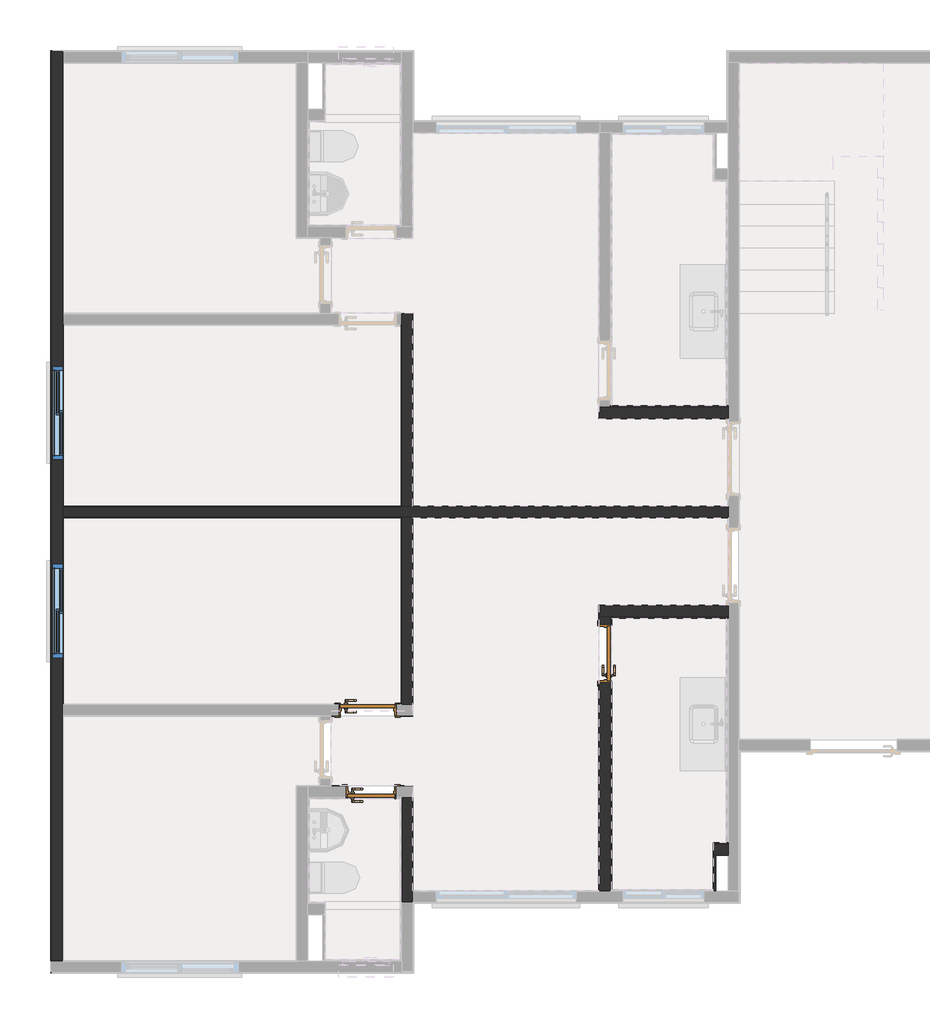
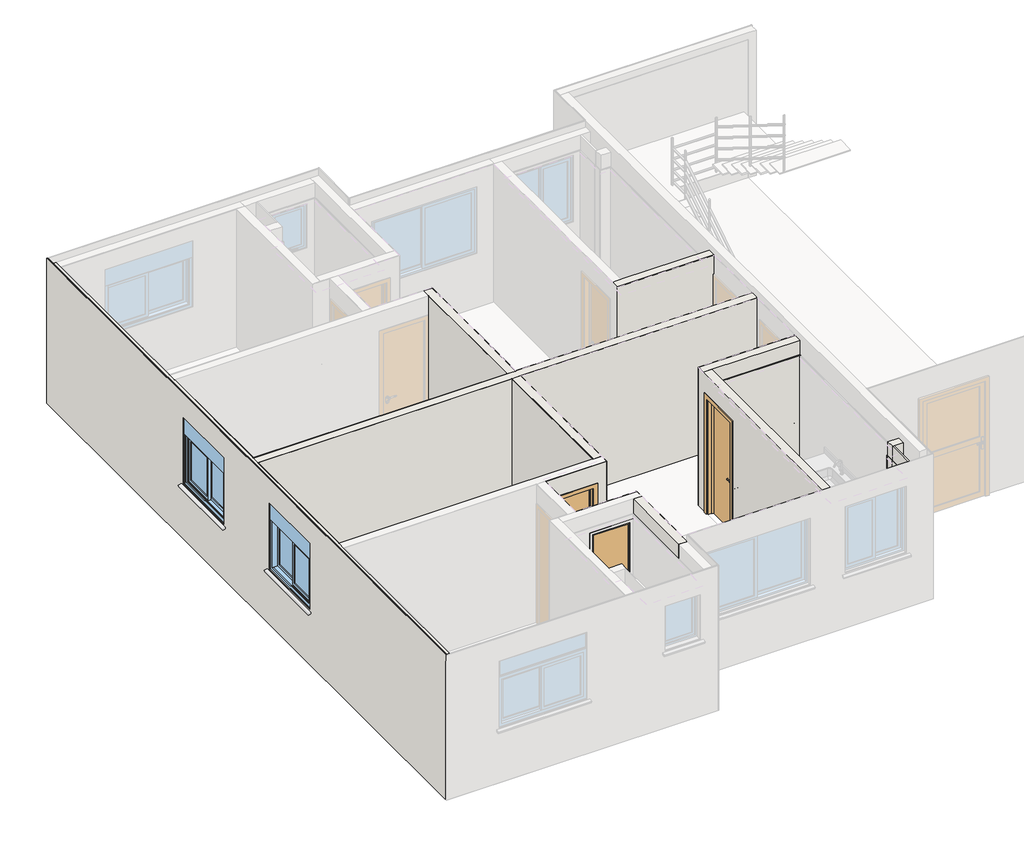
# One storey, part 2 of 9: 33 walls, 3 doors, 2 windows.
"""IFC4 building model written with IfcOpenShell, lengths in millimetres."""

from ifc_helpers import new_model, si_unit, frame, origin, place, context, project, spatial, polyline, outline, extrude, faceted_brep, transform, mapped, element, save
from components import porta_de_madeira_interna_60_x_210_porta_de_madeira_interna_53f76a03, porta_de_madeira_interna_70_x_210_porta_de_madeira_interna_d0067c94, porta_de_madeira_interna_70_x_210_porta_de_madeira_interna_f307109d, window_120x120_fed861a7, window_120x120_8f0dd2b5

model = new_model("IFC4")

# Units and contexts
model_context = context("Model", 3, world=origin())
ifc_project = project(units=[si_unit("LENGTHUNIT", "METRE", prefix="MILLI")], contexts=[model_context])

# Site, building, storey
site = spatial("IfcSite", under=ifc_project)
building = spatial("IfcBuilding", under=site)
storey = spatial("IfcBuildingStorey", under=building, Name="2º Pavimento", Elevation=2630.0)

# Doors
placement = place(None, origin())
porta_de_madeira_interna_60_x_210_porta_de_madeira_interna_shape = porta_de_madeira_interna_60_x_210_porta_de_madeira_interna_53f76a03(model_context)
element("IfcDoor", 1, ObjectType="Porta de Madeira Interna 60 x 210 : Porta de Madeira Interna 60 x 210", at=placement, inside=storey, context=model_context, shape_type="MappedRepresentation", body=[
    mapped(porta_de_madeira_interna_60_x_210_porta_de_madeira_interna_shape, transform((4137.9990083, 2796.8217615, 2630.0), x_axis=(1.0, 0.0, 0.0), y_axis=(0.0, 1.0, 0.0), z_axis=(0.0, 0.0, 1.0))),
])
porta_de_madeira_interna_70_x_210_porta_de_madeira_interna_shape = porta_de_madeira_interna_70_x_210_porta_de_madeira_interna_d0067c94(model_context)
element("IfcDoor", 2, ObjectType="Porta de Madeira Interna 70 x 210 : Porta de Madeira Interna 70 x 210", at=placement, inside=storey, context=model_context, shape_type="MappedRepresentation", body=[
    mapped(porta_de_madeira_interna_70_x_210_porta_de_madeira_interna_shape, transform((4092.999908, 3853.1701411, 2630.0), x_axis=(1.0, 0.0, 0.0), y_axis=(0.0, 1.0, 0.0), z_axis=(0.0, 0.0, 1.0))),
])
porta_de_madeira_interna_70_x_210_porta_de_madeira_interna_2_shape = porta_de_madeira_interna_70_x_210_porta_de_madeira_interna_f307109d(model_context)
element("IfcDoor", 3, ObjectType="Porta de Madeira Interna 70 x 210 : Porta de Madeira Interna 70 x 210", at=placement, inside=storey, context=model_context, shape_type="MappedRepresentation", body=[
    mapped(porta_de_madeira_interna_70_x_210_porta_de_madeira_interna_2_shape, transform((7146.1736861, 4578.6603139, 2630.0), x_axis=(0.0, 1.0, 0.0), y_axis=(-1.0, 0.0, 0.0), z_axis=(0.0, 0.0, 1.0))),
])

# Walls
element("IfcWall", 4, ObjectType="Alvenaria Estrutural", at=placement, inside=storey, context=model_context, shape_type="Brep", body=[
    faceted_brep([(29.9991825, 12319.9951043, 2630.0), (29.9991825, 619.9952456, 2630.0), (29.9991825, 619.9952456, 5140.0), (29.9991825, 12319.9951043, 5140.0), (29.9991825, 5725.0101878, 3630.0), (29.9991825, 5725.0101878, 4830.0), (29.9991825, 4525.0101878, 4830.0), (29.9991825, 4525.0101878, 3630.0), (29.9991825, 4475.0101878, 3630.0), (29.9991825, 4475.0101878, 3581.3083694), (29.9991825, 5775.0101878, 3581.3083694), (29.9991825, 5775.0101878, 3630.0), (29.9991825, 7025.01044, 3630.0), (29.9991825, 7025.01044, 3581.3083694), (29.9991825, 8325.01044, 3581.3083694), (29.9991825, 8325.01044, 3630.0), (29.9991825, 8275.01044, 3630.0), (29.9991825, 8275.01044, 4830.0), (29.9991825, 7075.01044, 4830.0), (29.9991825, 7075.01044, 3630.0), (169.9991825, 619.9952456, 2630.0), (169.9991825, 3773.9951411, 2630.0), (169.9991825, 3779.9951411, 2630.0), (169.9991825, 3919.9951411, 2630.0), (169.9991825, 3925.9951411, 2630.0), (169.9991825, 6324.0103139, 2630.0), (169.9991825, 6330.0103139, 2630.0), (169.9991825, 6470.0103139, 2630.0), (169.9991825, 6476.0103139, 2630.0), (169.9991825, 8804.0244803, 2630.0), (169.9991825, 8810.0244803, 2630.0), (169.9991825, 8950.0244803, 2630.0), (169.9991825, 8956.0244803, 2630.0), (169.9991825, 12180.0252435, 2630.0), (169.9991825, 12319.9951043, 2630.0), (169.9991825, 12319.9951043, 5140.0), (169.9991825, 12180.0252435, 5140.0), (169.9991825, 8956.0244803, 5140.0), (169.9991825, 8950.0244803, 5140.0), (169.9991825, 8810.0244803, 5140.0), (169.9991825, 8804.0244803, 5140.0), (169.9991825, 6476.0103139, 5140.0), (169.9991825, 6470.0103139, 5140.0), (169.9991825, 6330.0103139, 5140.0), (169.9991825, 6324.0103139, 5140.0), (169.9991825, 3925.9951411, 5140.0), (169.9991825, 3919.9951411, 5140.0), (169.9991825, 3779.9951411, 5140.0), (169.9991825, 3773.9951411, 5140.0), (169.9991825, 619.9952456, 5140.0), (169.9991825, 5725.0101878, 4830.0), (169.9991825, 5725.0101878, 3630.0), (169.9991825, 4525.0101878, 3630.0), (169.9991825, 4525.0101878, 4830.0), (169.9991825, 7075.01044, 3630.0), (169.9991825, 7075.01044, 4830.0), (169.9991825, 8275.01044, 4830.0), (169.9991825, 8275.01044, 3630.0), (127.4991825, 5725.0101878, 3630.0), (127.4991825, 4525.0101878, 3630.0), (127.4991825, 7075.01044, 3630.0), (127.4991825, 8275.01044, 3630.0), (127.4991825, 4475.0101878, 3630.0), (127.4991825, 4475.0101878, 3602.0326341), (127.4991825, 5775.0101878, 3602.0326341), (127.4991825, 5775.0101878, 3630.0), (127.4991825, 7025.01044, 3630.0), (127.4991825, 7025.01044, 3602.0326341), (127.4991825, 8325.01044, 3602.0326341), (127.4991825, 8325.01044, 3630.0)], [[[0, 1, 2, 3], [4, 5, 6, 7, 8, 9, 10, 11], [12, 13, 14, 15, 16, 17, 18, 19]], [[20, 21, 22, 23, 24, 25, 26, 27, 28, 29, 30, 31, 32, 33, 34, 35, 36, 37, 38, 39, 40, 41, 42, 43, 44, 45, 46, 47, 48, 49], [50, 51, 52, 53], [54, 55, 56, 57]], [[5, 4, 58, 51, 50]], [[6, 5, 50, 53]], [[7, 6, 53, 52, 59]], [[52, 51, 58, 59]], [[19, 18, 55, 54, 60]], [[18, 17, 56, 55]], [[17, 16, 61, 57, 56]], [[54, 57, 61, 60]], [[1, 0, 34, 33, 32, 31, 30, 29, 28, 27, 26, 25, 24, 23, 22, 21, 20]], [[2, 1, 20, 49]], [[3, 2, 49, 48, 47, 46, 45, 44, 43, 42, 41, 40, 39, 38, 37, 36, 35]], [[0, 3, 35, 34]], [[9, 8, 62, 63]], [[11, 10, 64, 65]], [[59, 58, 65, 64, 63, 62]], [[8, 7, 59, 62]], [[10, 9, 63, 64]], [[13, 12, 66, 67]], [[15, 14, 68, 69]], [[60, 61, 69, 68, 67, 66]], [[12, 19, 60, 66]], [[14, 13, 67, 68]], [[16, 15, 69, 61]], [[4, 11, 65, 58]]]),
])
element("IfcWall", 5, ObjectType="Alvenaria Estrutural", at=placement, inside=storey, context=model_context, shape_type="Brep", body=[
    faceted_brep([(169.9991825, 6330.0103139, 2630.0), (175.9991825, 6330.0103139, 2630.0), (4523.9996867, 6330.0103139, 2630.0), (4529.9996867, 6330.0103139, 2630.0), (4669.9996867, 6330.0103139, 2630.0), (4675.9996867, 6330.0103139, 2630.0), (8723.9963008, 6330.0103139, 2630.0), (8729.9963008, 6330.0103139, 2630.0), (8729.9963008, 6330.0103139, 5140.0), (8723.9963008, 6330.0103139, 5140.0), (4675.9996867, 6330.0103139, 5140.0), (4669.9996867, 6330.0103139, 5140.0), (4529.9996867, 6330.0103139, 5140.0), (4523.9996867, 6330.0103139, 5140.0), (175.9991825, 6330.0103139, 5140.0), (169.9991825, 6330.0103139, 5140.0), (169.9991825, 6470.0103139, 2630.0), (169.9991825, 6470.0103139, 5140.0), (175.9991825, 6470.0103139, 5140.0), (4523.9996867, 6470.0103139, 5140.0), (4529.9996867, 6470.0103139, 5140.0), (4669.9996867, 6470.0103139, 5140.0), (4675.9996867, 6470.0103139, 5140.0), (8723.9963008, 6470.0103139, 5140.0), (8729.9963008, 6470.0103139, 5140.0), (8729.9963008, 6470.0103139, 2630.0), (8723.9963008, 6470.0103139, 2630.0), (4675.9996867, 6470.0103139, 2630.0), (4669.9996867, 6470.0103139, 2630.0), (4529.9996867, 6470.0103139, 2630.0), (4523.9996867, 6470.0103139, 2630.0), (175.9991825, 6470.0103139, 2630.0)], [[[0, 1, 2, 3, 4, 5, 6, 7, 8, 9, 10, 11, 12, 13, 14, 15]], [[16, 17, 18, 19, 20, 21, 22, 23, 24, 25, 26, 27, 28, 29, 30, 31]], [[1, 0, 16, 31, 30, 29, 28, 27, 26, 25, 7, 6, 5, 4, 3, 2]], [[9, 8, 24, 23, 22, 21, 20, 19, 18, 17, 15, 14, 13, 12, 11, 10]], [[8, 7, 25, 24]], [[0, 15, 17, 16]]]),
])
element("IfcWall", 6, ObjectType="Alvenaria Estrutural", at=placement, inside=storey, context=model_context, shape_type="Brep", body=[
    faceted_brep([(4529.9996867, 6330.0103139, 2630.0), (4529.9996867, 6324.0103139, 2630.0), (4529.9996867, 3925.9951411, 2630.0), (4529.9996867, 3919.9951411, 2630.0), (4529.9996867, 3919.9951411, 5140.0), (4529.9996867, 3925.9951411, 5140.0), (4529.9996867, 6324.0103139, 5140.0), (4529.9996867, 6330.0103139, 5140.0), (4669.9996867, 6330.0103139, 2630.0), (4669.9996867, 6330.0103139, 5140.0), (4669.9996867, 6324.0103139, 5140.0), (4669.9996867, 3919.9951411, 5140.0), (4669.9996867, 3919.9951411, 2630.0), (4669.9996867, 6324.0103139, 2630.0)], [[[0, 1, 2, 3, 4, 5, 6, 7]], [[8, 9, 10, 11, 12, 13]], [[1, 0, 8, 13, 12, 3, 2]], [[5, 4, 11, 10, 9, 7, 6]], [[0, 7, 9, 8]], [[4, 3, 12, 11]]]),
])
element("IfcWall", 7, ObjectType="Alvenaria Estrutural", at=placement, inside=storey, context=model_context, shape_type="Brep", body=[
    faceted_brep([(4669.9990083, 1374.9970972, 2630.0), (4669.9990083, 1519.9983274, 2630.0), (4669.9990083, 1525.9983274, 2630.0), (4669.9990083, 2729.9967615, 2630.0), (4669.9990083, 2729.9967615, 5140.0), (4669.9990083, 1525.9983274, 5140.0), (4669.9990083, 1519.9983274, 5140.0), (4669.9990083, 1374.9970972, 5140.0), (4529.9990083, 1374.9970972, 2630.0), (4529.9990083, 1374.9970972, 5140.0), (4529.9990083, 2729.9967615, 5140.0), (4529.9990083, 2729.9967615, 4880.0), (4529.9990083, 2729.9967615, 2630.0), (4529.9990083, 2709.9967615, 2630.0)], [[[0, 1, 2, 3, 4, 5, 6, 7]], [[8, 9, 10, 11, 12, 13]], [[1, 0, 8, 13, 12, 3, 2]], [[5, 4, 10, 9, 7, 6]], [[0, 7, 9, 8]], [[4, 3, 12, 11, 10]]]),
])
element("IfcWall", 8, ObjectType="Alvenaria Estrutural", at=placement, inside=storey, context=model_context, shape_type="Brep", body=[
    faceted_brep([(4669.9996867, 6470.0103139, 2630.0), (4669.9996867, 6476.0103139, 2630.0), (4669.9996867, 8950.0244803, 2630.0), (4669.9996867, 8950.0244803, 5140.0), (4669.9996867, 6476.0103139, 5140.0), (4669.9996867, 6470.0103139, 5140.0), (4529.9996867, 6470.0103139, 2630.0), (4529.9996867, 6470.0103139, 5140.0), (4529.9996867, 6476.0103139, 5140.0), (4529.9996867, 8804.0244803, 5140.0), (4529.9996867, 8810.0244803, 5140.0), (4529.9996867, 8950.0244803, 5140.0), (4529.9996867, 8950.0244803, 2630.0), (4529.9996867, 8810.0244803, 2630.0), (4529.9996867, 8804.0244803, 2630.0), (4529.9996867, 6476.0103139, 2630.0)], [[[0, 1, 2, 3, 4, 5]], [[6, 7, 8, 9, 10, 11, 12, 13, 14, 15]], [[1, 0, 6, 15, 14, 13, 12, 2]], [[4, 3, 11, 10, 9, 8, 7, 5]], [[3, 2, 12, 11]], [[0, 5, 7, 6]]]),
])
element("IfcWall", 9, ObjectType="Alvenaria Estrutural", at=placement, inside=storey, context=model_context, shape_type="Brep", body=[
    faceted_brep([(8729.9963008, 2125.0132549, 2630.0), (8709.9963008, 2125.0132549, 2630.0), (8546.99631, 2125.0132549, 2630.0), (8546.99631, 2125.0132549, 5140.0), (8729.9963008, 2125.0132549, 5140.0), (8729.9963008, 2125.0132549, 4880.0), (8729.9963008, 1985.0132549, 2630.0), (8729.9963008, 1985.0132549, 5140.0), (8569.99631, 1985.0132549, 5140.0), (8546.99631, 1985.0132549, 5140.0), (8546.99631, 1985.0132549, 2630.0), (8569.99631, 1985.0132549, 2630.0)], [[[0, 1, 2, 3, 4, 5]], [[6, 7, 8, 9, 10, 11]], [[1, 0, 6, 11, 10, 2]], [[4, 3, 9, 8, 7]], [[3, 2, 10, 9]], [[5, 4, 7, 6, 0]]]),
])
element("IfcWall", 10, ObjectType="Alvenaria Estrutural", at=placement, inside=storey, context=model_context, shape_type="Brep", body=[
    faceted_brep([(8729.9963008, 5193.6603139, 2630.0), (8723.9963008, 5193.6603139, 2630.0), (7072.9986861, 5193.6603139, 2630.0), (7072.9986861, 5193.6603139, 5140.0), (8723.9963008, 5193.6603139, 5140.0), (8729.9963008, 5193.6603139, 5140.0), (8729.9963008, 5053.6603139, 2630.0), (8729.9963008, 5053.6603139, 4880.0), (8729.9963008, 5053.6603139, 5140.0), (7212.9986861, 5053.6603139, 5140.0), (7072.9986861, 5053.6603139, 5140.0), (7072.9986861, 5053.6603139, 2630.0), (7212.9986861, 5053.6603139, 2630.0), (7233.0017324, 5053.6603139, 2630.0), (8709.9963008, 5053.6603139, 2630.0)], [[[0, 1, 2, 3, 4, 5]], [[6, 7, 8, 9, 10, 11, 12, 13, 14]], [[1, 0, 6, 14, 13, 12, 11, 2]], [[4, 3, 10, 9, 8, 5]], [[3, 2, 11, 10]], [[0, 5, 8, 7, 6]]]),
])
element("IfcWall", 11, ObjectType="Alvenaria Estrutural", at=placement, inside=storey, context=model_context, shape_type="Brep", body=[
    faceted_brep([(7212.9986861, 1519.9983274, 2630.0), (7212.9986861, 1519.9983274, 2640.0), (7212.9986861, 1519.9983274, 4880.0), (7212.9986861, 1519.9983274, 5140.0), (7072.9986861, 1519.9983274, 5140.0), (7072.9986861, 1519.9983274, 2640.0), (7072.9986861, 1519.9983274, 2630.0), (7212.9986861, 1539.9983274, 2630.0), (7072.9986861, 1525.9983274, 2630.0), (7072.9986861, 4203.6603139, 2630.0), (7212.9986861, 4203.6603139, 2630.0), (7212.9986861, 4203.6603139, 2640.0), (7072.9986861, 4203.6603139, 2640.0), (7072.9986861, 4203.6603139, 4755.0), (7212.9986861, 4203.6603139, 4755.0), (7212.9986861, 4953.6603139, 2630.0), (7212.9986861, 4953.6603139, 2640.0), (7212.9986861, 4953.6603139, 4755.0), (7072.9986861, 4953.6603139, 4755.0), (7072.9986861, 4953.6603139, 2640.0), (7072.9986861, 4953.6603139, 2630.0), (7212.9986861, 5033.6603139, 2630.0), (7072.9986861, 5053.6603139, 2630.0), (7212.9986861, 5053.6603139, 2630.0), (7212.9986861, 5053.6603139, 2640.0), (7072.9986861, 5053.6603139, 2640.0), (7072.9986861, 5053.6603139, 5140.0), (7212.9986861, 5053.6603139, 5140.0), (7212.9986861, 5053.6603139, 4880.0), (7072.9986861, 1525.9983274, 5140.0)], [[[0, 1, 2, 3, 4, 5, 6]], [[7, 0, 6, 8, 9, 10]], [[11, 10, 9, 12, 13, 14]], [[15, 16, 17, 18, 19, 20]], [[21, 15, 20, 22, 23]], [[24, 23, 22, 25, 26, 27, 28]], [[25, 22, 20, 19, 18, 13, 12, 9, 8, 6, 5, 4, 29, 26]], [[3, 27, 26, 29, 4]], [[17, 14, 13, 18]], [[16, 15, 21, 23, 24, 28, 27, 3, 2, 1, 0, 7, 10, 11, 14, 17]]]),
])
element("IfcWall", 12, ObjectType="Alvenaria Estrutural", at=placement, inside=storey, context=model_context, shape_type="Brep", body=[
    faceted_brep([(8729.9963008, 7746.3603139, 2630.0), (8709.9963008, 7746.3603139, 2630.0), (7233.0017324, 7746.3603139, 2630.0), (7212.9986861, 7746.3603139, 2630.0), (7072.9986861, 7746.3603139, 2630.0), (7072.9986861, 7746.3603139, 5140.0), (7212.9986861, 7746.3603139, 5140.0), (8729.9963008, 7746.3603139, 5140.0), (8729.9963008, 7746.3603139, 4880.0), (8729.9963008, 7606.3603139, 2630.0), (8729.9963008, 7606.3603139, 5140.0), (8723.9963008, 7606.3603139, 5140.0), (7072.9986861, 7606.3603139, 5140.0), (7072.9986861, 7606.3603139, 2630.0), (8723.9963008, 7606.3603139, 2630.0)], [[[0, 1, 2, 3, 4, 5, 6, 7, 8]], [[9, 10, 11, 12, 13, 14]], [[1, 0, 9, 14, 13, 4, 3, 2]], [[6, 5, 12, 11, 10, 7]], [[5, 4, 13, 12]], [[8, 7, 10, 9, 0]]]),
])
element("IfcWall", 13, ObjectType="Azulejo", at=placement, inside=storey, context=model_context, shape_type="Brep", body=[
    faceted_brep([(7233.0017324, 4203.6603139, 2630.0), (7233.0017324, 1519.9983274, 2630.0), (7223.0017324, 1519.9983274, 2630.0), (7223.0017324, 4203.6603139, 2630.0), (7223.0017324, 4203.6603139, 2640.0), (7223.0017324, 4203.6603139, 4755.0), (7233.0017324, 4203.6603139, 4755.0), (7233.0017324, 4203.6603139, 2640.0), (7233.0017324, 4953.6603139, 2630.0), (7233.0017324, 4953.6603139, 2640.0), (7233.0017324, 4953.6603139, 4755.0), (7223.0017324, 4953.6603139, 4755.0), (7223.0017324, 4953.6603139, 2640.0), (7223.0017324, 4953.6603139, 2630.0), (7223.0017324, 5053.6603139, 2630.0), (7233.0017324, 5053.6603139, 2630.0), (7233.0017324, 5053.6603139, 2640.0), (7223.0017324, 5053.6603139, 2640.0), (7223.0017324, 5053.6603139, 4880.0), (7233.0017324, 5053.6603139, 4880.0), (7233.0017324, 1519.9983274, 2640.0), (7233.0017324, 1519.9983274, 4880.0), (7223.0017324, 1519.9983274, 4880.0), (7223.0017324, 1519.9983274, 2640.0)], [[[0, 1, 2, 3]], [[0, 3, 4, 5, 6, 7]], [[8, 9, 10, 11, 12, 13]], [[8, 13, 14, 15]], [[16, 15, 14, 17, 18, 19]], [[2, 1, 20, 21, 22, 23]], [[1, 0, 7, 6, 10, 9, 8, 15, 16, 19, 21, 20]], [[3, 2, 23, 22, 18, 17, 14, 13, 12, 11, 5, 4]], [[10, 6, 5, 11]], [[21, 19, 18, 22]]]),
    faceted_brep([(7223.0017324, 4203.6603139, 2630.0), (7223.0017324, 1519.9983274, 2630.0), (7213.0017324, 1519.9983274, 2630.0), (7213.0017324, 4203.6603139, 2630.0), (7223.0017324, 4203.6603139, 2640.0), (7213.0017324, 4203.6603139, 2640.0), (7213.0017324, 4203.6603139, 4755.0), (7223.0017324, 4203.6603139, 4755.0), (7223.0017324, 4953.6603139, 2630.0), (7223.0017324, 4953.6603139, 2640.0), (7223.0017324, 4953.6603139, 4755.0), (7213.0017324, 4953.6603139, 4755.0), (7213.0017324, 4953.6603139, 2640.0), (7213.0017324, 4953.6603139, 2630.0), (7223.0017324, 5053.6603139, 2630.0), (7213.0017324, 5053.6603139, 2630.0), (7223.0017324, 5053.6603139, 2640.0), (7213.0017324, 5053.6603139, 2640.0), (7213.0017324, 5053.6603139, 4880.0), (7223.0017324, 5053.6603139, 4880.0), (7223.0017324, 1519.9983274, 2640.0), (7223.0017324, 1519.9983274, 4880.0), (7213.0017324, 1519.9983274, 4880.0), (7213.0017324, 1519.9983274, 2640.0)], [[[0, 1, 2, 3]], [[4, 0, 3, 5, 6, 7]], [[8, 9, 10, 11, 12, 13]], [[14, 8, 13, 15]], [[16, 14, 15, 17, 18, 19]], [[1, 20, 21, 22, 23, 2]], [[17, 15, 13, 12, 11, 6, 5, 3, 2, 23, 22, 18]], [[10, 7, 6, 11]], [[21, 19, 18, 22]], [[9, 8, 14, 16, 19, 21, 20, 1, 0, 4, 7, 10]]]),
])
element("IfcWall", 14, ObjectType="Azulejo", at=placement, inside=storey, context=model_context, shape_type="SweptSolid", body=[
    extrude(outline(polyline([(8729.9963008, 5033.6603139), (7212.9986861, 5033.6603139), (7212.9986861, 5043.6603139), (8729.9963008, 5043.6603139), (8729.9963008, 5033.6603139)])), frame((0.0, 0.0, 2630.0), z_axis=(0.0, 0.0, 1.0), x_axis=(1.0, 0.0, 0.0)), (0.0, 0.0, 1.0), 2250.0),
    extrude(outline(polyline([(7212.9986861, 5053.6603139), (8729.9963008, 5053.6603139), (8729.9963008, 5043.6603139), (7212.9986861, 5043.6603139), (7212.9986861, 5053.6603139)])), frame((0.0, 0.0, 2630.0), z_axis=(0.0, 0.0, 1.0), x_axis=(1.0, 0.0, 0.0)), (0.0, 0.0, 1.0), 2250.0),
])
element("IfcWall", 15, ObjectType="Azulejo", at=placement, inside=storey, context=model_context, shape_type="SolidModel", body=[
    extrude(outline(polyline([(8536.99631, 2145.0132549), (8729.9963008, 2145.0132549), (8729.9963008, 2135.0132549), (8536.99631, 2135.0132549), (8536.99631, 2145.0132549)])), frame((0.0, 0.0, 2630.0), z_axis=(0.0, 0.0, 1.0), x_axis=(1.0, 0.0, 0.0)), (0.0, 0.0, 1.0), 2250.0),
    faceted_brep([(8729.9963008, 2135.0132549, 2630.0), (8546.99631, 2135.0132549, 2630.0), (8546.99631, 2135.0132549, 4880.0), (8729.9963008, 2135.0132549, 4880.0), (8546.99631, 2125.0132549, 2630.0), (8556.99631, 2125.0132549, 2630.0), (8729.9963008, 2125.0132549, 2630.0), (8729.9963008, 2125.0132549, 4880.0), (8556.99631, 2125.0132549, 4880.0), (8546.99631, 2125.0132549, 4880.0)], [[[0, 1, 2, 3]], [[4, 5, 6, 7, 8, 9]], [[5, 4, 1, 0, 6]], [[8, 7, 3, 2, 9]], [[7, 6, 0, 3]], [[4, 9, 2, 1]]]),
])
element("IfcWall", 16, ObjectType="Azulejo", at=placement, inside=storey, context=model_context, shape_type="SweptSolid", body=[
    extrude(outline(polyline([(8536.99631, 1985.0132549), (8536.99631, 2135.0132549), (8546.99631, 2135.0132549), (8546.99631, 1985.0132549), (8536.99631, 1985.0132549)])), frame((0.0, 0.0, 2630.0), z_axis=(0.0, 0.0, 1.0), x_axis=(1.0, 0.0, 0.0)), (0.0, 0.0, 1.0), 2250.0),
    extrude(outline(polyline([(8556.99631, 2125.0132549), (8556.99631, 1985.0132549), (8546.99631, 1985.0132549), (8546.99631, 2125.0132549), (8556.99631, 2125.0132549)])), frame((0.0, 0.0, 2630.0), z_axis=(0.0, 0.0, 1.0), x_axis=(1.0, 0.0, 0.0)), (0.0, 0.0, 1.0), 2250.0),
])
element("IfcWall", 17, ObjectType="Azulejo", at=placement, inside=storey, context=model_context, shape_type="SweptSolid", body=[
    extrude(outline(polyline([(7212.9986861, 7766.3603139), (8729.9963008, 7766.3603139), (8729.9963008, 7756.3603139), (7212.9986861, 7756.3603139), (7212.9986861, 7766.3603139)])), frame((0.0, 0.0, 2630.0), z_axis=(0.0, 0.0, 1.0), x_axis=(1.0, 0.0, 0.0)), (0.0, 0.0, 1.0), 2250.0),
    extrude(outline(polyline([(8729.9963008, 7746.3603139), (7212.9986861, 7746.3603139), (7212.9986861, 7756.3603139), (8729.9963008, 7756.3603139), (8729.9963008, 7746.3603139)])), frame((0.0, 0.0, 2630.0), z_axis=(0.0, 0.0, 1.0), x_axis=(1.0, 0.0, 0.0)), (0.0, 0.0, 1.0), 2250.0),
])
element("IfcWall", 18, ObjectType="Azulejo - Shaft", at=placement, inside=storey, context=model_context, shape_type="SweptSolid", body=[
    extrude(outline(polyline([(8546.99631, 1985.0132549), (8546.99631, 1539.9983274), (8536.99631, 1539.9983274), (8536.99631, 1985.0132549), (8546.99631, 1985.0132549)])), frame((0.0, 0.0, 2630.0), z_axis=(0.0, 0.0, 1.0), x_axis=(1.0, 0.0, 0.0)), (0.0, 0.0, 1.0), 2250.0),
])
element("IfcWall", 19, ObjectType="Gesso Liso + Pintura", at=placement, inside=storey, context=model_context, shape_type="SweptSolid", body=[
    extrude(outline(polyline([(8810.0244803, 2630.0), (6470.0103139, 2630.0), (6470.0103139, 5140.0), (8810.0244803, 5140.0), (8810.0244803, 2630.0)]), holes=[polyline([(7075.01044, 4830.0), (7075.01044, 3630.0), (8275.01044, 3630.0), (8275.01044, 4830.0), (7075.01044, 4830.0)])]), frame((174.9991825, 0.0, 0.0), z_axis=(1.0, 0.0, 0.0), x_axis=(0.0, 1.0, 0.0)), (0.0, 0.0, 1.0), 1.0),
    extrude(outline(polyline([(6470.0103139, 2630.0), (6470.0103139, 5140.0), (8810.0244803, 5140.0), (8810.0244803, 2630.0), (6470.0103139, 2630.0)]), holes=[polyline([(7075.01044, 3630.0), (8275.01044, 3630.0), (8275.01044, 4830.0), (7075.01044, 4830.0), (7075.01044, 3630.0)])]), frame((169.9991825, 0.0, 0.0), z_axis=(1.0, 0.0, 0.0), x_axis=(0.0, 1.0, 0.0)), (0.0, 0.0, 1.0), 5.0),
])
element("IfcWall", 20, ObjectType="Gesso Liso + Pintura", at=placement, inside=storey, context=model_context, shape_type="SweptSolid", body=[
    extrude(outline(polyline([(4523.9996867, 6470.0103139), (4523.9996867, 8810.0244803), (4524.9996867, 8810.0244803), (4524.9996867, 6470.0103139), (4523.9996867, 6470.0103139)])), frame((0.0, 0.0, 2630.0), z_axis=(0.0, 0.0, 1.0), x_axis=(1.0, 0.0, 0.0)), (0.0, 0.0, 1.0), 2510.0),
    extrude(outline(polyline([(4529.9996867, 8810.0244803), (4529.9996867, 6470.0103139), (4524.9996867, 6470.0103139), (4524.9996867, 8810.0244803), (4529.9996867, 8810.0244803)])), frame((0.0, 0.0, 2630.0), z_axis=(0.0, 0.0, 1.0), x_axis=(1.0, 0.0, 0.0)), (0.0, 0.0, 1.0), 2510.0),
])
element("IfcWall", 21, ObjectType="Gesso Liso + Pintura", at=placement, inside=storey, context=model_context, shape_type="SweptSolid", body=[
    extrude(outline(polyline([(169.9991825, 6476.0103139), (4529.9996867, 6476.0103139), (4529.9996867, 6475.0103139), (169.9991825, 6475.0103139), (169.9991825, 6476.0103139)])), frame((0.0, 0.0, 2630.0), z_axis=(0.0, 0.0, 1.0), x_axis=(1.0, 0.0, 0.0)), (0.0, 0.0, 1.0), 2510.0),
    extrude(outline(polyline([(4529.9996867, 6470.0103139), (169.9991825, 6470.0103139), (169.9991825, 6475.0103139), (4529.9996867, 6475.0103139), (4529.9996867, 6470.0103139)])), frame((0.0, 0.0, 2630.0), z_axis=(0.0, 0.0, 1.0), x_axis=(1.0, 0.0, 0.0)), (0.0, 0.0, 1.0), 2510.0),
])
element("IfcWall", 22, ObjectType="Gesso Liso + Pintura", at=placement, inside=storey, context=model_context, shape_type="SweptSolid", body=[
    extrude(outline(polyline([(6330.0103139, 2630.0), (3919.9951411, 2630.0), (3919.9951411, 5140.0), (6330.0103139, 5140.0), (6330.0103139, 2630.0)]), holes=[polyline([(5725.0101878, 3630.0), (5725.0101878, 4830.0), (4525.0101878, 4830.0), (4525.0101878, 3630.0), (5725.0101878, 3630.0)])]), frame((174.9991825, 0.0, 0.0), z_axis=(1.0, 0.0, 0.0), x_axis=(0.0, 1.0, 0.0)), (0.0, 0.0, 1.0), 1.0),
    extrude(outline(polyline([(6330.0103139, 2630.0), (3919.9951411, 2630.0), (3919.9951411, 5140.0), (6330.0103139, 5140.0), (6330.0103139, 2630.0)]), holes=[polyline([(5725.0101878, 3630.0), (5725.0101878, 4830.0), (4525.0101878, 4830.0), (4525.0101878, 3630.0), (5725.0101878, 3630.0)])]), frame((169.9991825, 0.0, 0.0), z_axis=(1.0, 0.0, 0.0), x_axis=(0.0, 1.0, 0.0)), (0.0, 0.0, 1.0), 5.0),
])
element("IfcWall", 23, ObjectType="Gesso Liso + Pintura", at=placement, inside=storey, context=model_context, shape_type="SweptSolid", body=[
    extrude(outline(polyline([(4523.9996867, 3919.9951411), (4523.9996867, 6330.0103139), (4524.9996867, 6330.0103139), (4524.9996867, 3919.9951411), (4523.9996867, 3919.9951411)])), frame((0.0, 0.0, 2630.0), z_axis=(0.0, 0.0, 1.0), x_axis=(1.0, 0.0, 0.0)), (0.0, 0.0, 1.0), 2510.0),
    extrude(outline(polyline([(4529.9996867, 6330.0103139), (4529.9996867, 3919.9951411), (4524.9996867, 3919.9951411), (4524.9996867, 6330.0103139), (4529.9996867, 6330.0103139)])), frame((0.0, 0.0, 2630.0), z_axis=(0.0, 0.0, 1.0), x_axis=(1.0, 0.0, 0.0)), (0.0, 0.0, 1.0), 2510.0),
])
element("IfcWall", 24, ObjectType="Gesso Liso + Pintura", at=placement, inside=storey, context=model_context, shape_type="SweptSolid", body=[
    extrude(outline(polyline([(4529.9996867, 6324.0103139), (169.9991825, 6324.0103139), (169.9991825, 6325.0103139), (4529.9996867, 6325.0103139), (4529.9996867, 6324.0103139)])), frame((0.0, 0.0, 2630.0), z_axis=(0.0, 0.0, 1.0), x_axis=(1.0, 0.0, 0.0)), (0.0, 0.0, 1.0), 2510.0),
    extrude(outline(polyline([(169.9991825, 6330.0103139), (4529.9996867, 6330.0103139), (4529.9996867, 6325.0103139), (169.9991825, 6325.0103139), (169.9991825, 6330.0103139)])), frame((0.0, 0.0, 2630.0), z_axis=(0.0, 0.0, 1.0), x_axis=(1.0, 0.0, 0.0)), (0.0, 0.0, 1.0), 2510.0),
])
element("IfcWall", 25, ObjectType="Gesso Liso + Pintura", at=placement, inside=storey, context=model_context, shape_type="Brep", body=[
    faceted_brep([(4675.9990083, 2875.9967615, 2630.0), (4675.9990083, 1519.9983274, 2630.0), (4674.9990083, 1519.9983274, 2630.0), (4674.9990083, 2875.9967615, 2630.0), (4674.9990083, 2875.9967615, 2640.0), (4674.9990083, 2875.9967615, 5140.0), (4675.9990083, 2875.9967615, 5140.0), (4675.9990083, 2875.9967615, 2640.0), (4675.9990083, 1519.9983274, 2640.0), (4675.9990083, 1519.9983274, 5140.0), (4674.9990083, 1519.9983274, 5140.0), (4674.9990083, 1519.9983274, 2640.0)], [[[0, 1, 2, 3]], [[0, 3, 4, 5, 6, 7]], [[2, 1, 8, 9, 10, 11]], [[1, 0, 7, 6, 9, 8]], [[3, 2, 11, 10, 5, 4]], [[9, 6, 5, 10]]]),
    faceted_brep([(4674.9990083, 1519.9983274, 2630.0), (4674.9990083, 2874.9967615, 2630.0), (4674.9990083, 2874.9967615, 2640.0), (4674.9990083, 2874.9967615, 5140.0), (4674.9990083, 1519.9983274, 5140.0), (4674.9990083, 1519.9983274, 2640.0), (4669.9990083, 1519.9983274, 2630.0), (4669.9990083, 2869.9967615, 2630.0), (4669.9990083, 2874.9967615, 2630.0), (4669.9990083, 1519.9983274, 5140.0), (4669.9990083, 1519.9983274, 2640.0), (4669.9990083, 2869.9967615, 5140.0), (4669.9990083, 2874.9967615, 5140.0), (4669.9990083, 2874.9967615, 2640.0)], [[[0, 1, 2, 3, 4, 5]], [[1, 0, 6, 7, 8]], [[0, 5, 4, 9, 10, 6]], [[6, 10, 9, 11, 12, 13, 8, 7]], [[8, 13, 12, 3, 2, 1]], [[4, 3, 12, 11, 9]]]),
])
element("IfcWall", 26, ObjectType="Gesso Liso + Pintura", at=placement, inside=storey, context=model_context, shape_type="SweptSolid", body=[
    extrude(outline(polyline([(2630.0, 4462.9990083), (2630.0, 4674.9990083), (5140.0, 4674.9990083), (5140.0, 3619.9980641), (2630.0, 3619.9980641), (2630.0, 3812.9990083), (4755.0, 3812.9990083), (4755.0, 4462.9990083), (2630.0, 4462.9990083)])), frame((0.0, 2874.9967615, 0.0), z_axis=(0.0, 1.0, 0.0), x_axis=(0.0, 0.0, 1.0)), (0.0, 0.0, 1.0), 1.0),
    extrude(outline(polyline([(5140.0, 4669.9990083), (5140.0, 3619.9980641), (2630.0, 3619.9980641), (2630.0, 3812.9990083), (4755.0, 3812.9990083), (4755.0, 4462.9990083), (2630.0, 4462.9990083), (2630.0, 4669.9990083), (5140.0, 4669.9990083)])), frame((0.0, 2869.9967615, 0.0), z_axis=(0.0, 1.0, 0.0), x_axis=(0.0, 0.0, 1.0)), (0.0, 0.0, 1.0), 5.0),
])
element("IfcWall", 27, ObjectType="Gesso Liso + Pintura", at=placement, inside=storey, context=model_context, shape_type="SolidModel", body=[
    extrude(outline(polyline([(5140.0, 4675.9996867), (5140.0, 3619.9980641), (2630.0, 3619.9980641), (2630.0, 3717.999908), (4755.0, 3717.999908), (4755.0, 4467.999908), (2630.0, 4467.999908), (2630.0, 4675.9996867), (5140.0, 4675.9996867)])), frame((0.0, 3773.9951411, 0.0), z_axis=(0.0, 1.0, 0.0), x_axis=(0.0, 0.0, 1.0)), (0.0, 0.0, 1.0), 1.0),
    faceted_brep([(4467.999908, 3774.9951411, 2630.0), (4674.9996867, 3774.9951411, 2630.0), (4674.9996867, 3774.9951411, 5140.0), (3619.9980641, 3774.9951411, 5140.0), (3619.9980641, 3774.9951411, 2630.0), (3717.999908, 3774.9951411, 2630.0), (3717.999908, 3774.9951411, 4755.0), (4467.999908, 3774.9951411, 4755.0), (3619.9980641, 3779.9951411, 5140.0), (4669.9996867, 3779.9951411, 5140.0), (4674.9996867, 3779.9951411, 5140.0), (4674.9996867, 3779.9951411, 2630.0), (4669.9996867, 3779.9951411, 2630.0), (4467.999908, 3779.9951411, 2630.0), (4467.999908, 3779.9951411, 4755.0), (3717.999908, 3779.9951411, 4755.0), (3717.999908, 3779.9951411, 2630.0), (3619.9980641, 3779.9951411, 2630.0)], [[[0, 1, 2, 3, 4, 5, 6, 7]], [[8, 9, 10, 11, 12, 13, 14, 15, 16, 17]], [[17, 16, 5, 4]], [[9, 8, 3, 2, 10]], [[14, 13, 0, 7]], [[15, 14, 7, 6]], [[16, 15, 6, 5]], [[8, 17, 4, 3]], [[12, 11, 1, 0, 13]], [[11, 10, 2, 1]]]),
])
element("IfcWall", 28, ObjectType="Gesso Liso + Pintura", at=placement, inside=storey, context=model_context, shape_type="SweptSolid", body=[
    extrude(outline(polyline([(4675.9996867, 6330.0103139), (4675.9996867, 3774.9951411), (4674.9996867, 3774.9951411), (4674.9996867, 6330.0103139), (4675.9996867, 6330.0103139)])), frame((0.0, 0.0, 2630.0), z_axis=(0.0, 0.0, 1.0), x_axis=(1.0, 0.0, 0.0)), (0.0, 0.0, 1.0), 2510.0),
    extrude(outline(polyline([(4669.9996867, 3779.9951411), (4669.9996867, 6330.0103139), (4674.9996867, 6330.0103139), (4674.9996867, 3779.9951411), (4669.9996867, 3779.9951411)])), frame((0.0, 0.0, 2630.0), z_axis=(0.0, 0.0, 1.0), x_axis=(1.0, 0.0, 0.0)), (0.0, 0.0, 1.0), 2510.0),
])
element("IfcWall", 29, ObjectType="Gesso Liso + Pintura", at=placement, inside=storey, context=model_context, shape_type="SweptSolid", body=[
    extrude(outline(polyline([(8729.9963008, 6324.0103139), (4669.9996867, 6324.0103139), (4669.9996867, 6325.0103139), (8729.9963008, 6325.0103139), (8729.9963008, 6324.0103139)])), frame((0.0, 0.0, 2630.0), z_axis=(0.0, 0.0, 1.0), x_axis=(1.0, 0.0, 0.0)), (0.0, 0.0, 1.0), 2510.0),
    extrude(outline(polyline([(4669.9996867, 6330.0103139), (8729.9963008, 6330.0103139), (8729.9963008, 6325.0103139), (4669.9996867, 6325.0103139), (4669.9996867, 6330.0103139)])), frame((0.0, 0.0, 2630.0), z_axis=(0.0, 0.0, 1.0), x_axis=(1.0, 0.0, 0.0)), (0.0, 0.0, 1.0), 2510.0),
])
element("IfcWall", 30, ObjectType="Gesso Liso + Pintura", at=placement, inside=storey, context=model_context, shape_type="SolidModel", body=[
    extrude(outline(polyline([(7066.9986861, 5199.6603139), (8723.9963008, 5199.6603139), (8723.9963008, 5198.6603139), (7066.9986861, 5198.6603139), (7066.9986861, 5199.6603139)])), frame((0.0, 0.0, 2630.0), z_axis=(0.0, 0.0, 1.0), x_axis=(1.0, 0.0, 0.0)), (0.0, 0.0, 1.0), 2510.0),
    faceted_brep([(8724.9963008, 5198.6603139, 2630.0), (7067.9986861, 5198.6603139, 2630.0), (7067.9986861, 5198.6603139, 5140.0), (8724.9963008, 5198.6603139, 5140.0), (7067.9986861, 5193.6603139, 2630.0), (7072.9986861, 5193.6603139, 2630.0), (8724.9963008, 5193.6603139, 2630.0), (8724.9963008, 5193.6603139, 5140.0), (7072.9986861, 5193.6603139, 5140.0), (7067.9986861, 5193.6603139, 5140.0)], [[[0, 1, 2, 3]], [[4, 5, 6, 7, 8, 9]], [[5, 4, 1, 0, 6]], [[8, 7, 3, 2, 9]], [[7, 6, 0, 3]], [[4, 9, 2, 1]]]),
])
element("IfcWall", 31, ObjectType="Gesso Liso + Pintura", at=placement, inside=storey, context=model_context, shape_type="Brep", body=[
    faceted_brep([(7066.9986861, 4203.6603139, 2630.0), (7067.9986861, 4203.6603139, 2630.0), (7067.9986861, 1519.9983274, 2630.0), (7066.9986861, 1519.9983274, 2630.0), (7066.9986861, 1519.9983274, 2640.0), (7067.9986861, 1519.9983274, 2640.0), (7067.9986861, 1519.9983274, 5140.0), (7066.9986861, 1519.9983274, 5140.0), (7066.9986861, 4953.6603139, 2630.0), (7066.9986861, 5198.6603139, 2630.0), (7067.9986861, 5198.6603139, 2630.0), (7067.9986861, 4953.6603139, 2630.0), (7067.9986861, 4953.6603139, 2640.0), (7067.9986861, 4953.6603139, 4755.0), (7066.9986861, 4953.6603139, 4755.0), (7066.9986861, 4953.6603139, 2640.0), (7066.9986861, 4203.6603139, 2640.0), (7066.9986861, 4203.6603139, 4755.0), (7067.9986861, 4203.6603139, 4755.0), (7067.9986861, 4203.6603139, 2640.0), (7066.9986861, 5198.6603139, 2640.0), (7066.9986861, 5198.6603139, 5140.0), (7067.9986861, 5198.6603139, 5140.0), (7067.9986861, 5198.6603139, 2640.0)], [[[0, 1, 2, 3]], [[4, 3, 2, 5, 6, 7]], [[8, 9, 10, 11]], [[8, 11, 12, 13, 14, 15]], [[0, 16, 17, 18, 19, 1]], [[9, 20, 21, 22, 23, 10]], [[21, 7, 6, 22]], [[17, 14, 13, 18]], [[1, 19, 18, 13, 12, 11, 10, 23, 22, 6, 5, 2]], [[16, 0, 3, 4, 7, 21, 20, 9, 8, 15, 14, 17]]]),
    faceted_brep([(7067.9986861, 1519.9983274, 2630.0), (7067.9986861, 4203.6603139, 2630.0), (7072.9986861, 4203.6603139, 2630.0), (7072.9986861, 1519.9983274, 2630.0), (7067.9986861, 1519.9983274, 2640.0), (7072.9986861, 1519.9983274, 2640.0), (7072.9986861, 1519.9983274, 5140.0), (7067.9986861, 1519.9983274, 5140.0), (7067.9986861, 5193.6603139, 2630.0), (7067.9986861, 5193.6603139, 2640.0), (7067.9986861, 5193.6603139, 5140.0), (7072.9986861, 5193.6603139, 5140.0), (7072.9986861, 5193.6603139, 2640.0), (7072.9986861, 5193.6603139, 2630.0), (7067.9986861, 4953.6603139, 2630.0), (7072.9986861, 5053.6603139, 2630.0), (7072.9986861, 4953.6603139, 2630.0), (7067.9986861, 4953.6603139, 2640.0), (7072.9986861, 4953.6603139, 2640.0), (7072.9986861, 4953.6603139, 4755.0), (7067.9986861, 4953.6603139, 4755.0), (7067.9986861, 4203.6603139, 2640.0), (7067.9986861, 4203.6603139, 4755.0), (7072.9986861, 4203.6603139, 4755.0), (7072.9986861, 4203.6603139, 2640.0), (7072.9986861, 5053.6603139, 5140.0)], [[[0, 1, 2, 3]], [[4, 0, 3, 5, 6, 7]], [[8, 9, 10, 11, 12, 13]], [[14, 8, 13, 15, 16]], [[17, 14, 16, 18, 19, 20]], [[1, 21, 22, 23, 24, 2]], [[5, 3, 2, 24, 23, 19, 18, 16, 15, 13, 12, 11, 25, 6]], [[10, 7, 6, 25, 11]], [[22, 20, 19, 23]], [[1, 0, 4, 7, 10, 9, 8, 14, 17, 20, 22, 21]]]),
])
element("IfcWall", 32, ObjectType="Gesso Liso + Pintura", at=placement, inside=storey, context=model_context, shape_type="SolidModel", body=[
    extrude(outline(polyline([(4675.9996867, 8956.0244803), (4675.9996867, 6470.0103139), (4674.9996867, 6470.0103139), (4674.9996867, 8956.0244803), (4675.9996867, 8956.0244803)])), frame((0.0, 0.0, 2630.0), z_axis=(0.0, 0.0, 1.0), x_axis=(1.0, 0.0, 0.0)), (0.0, 0.0, 1.0), 2510.0),
    faceted_brep([(4674.9996867, 6470.0103139, 2630.0), (4674.9996867, 8955.0244803, 2630.0), (4674.9996867, 8955.0244803, 5140.0), (4674.9996867, 6470.0103139, 5140.0), (4669.9996867, 8955.0244803, 2630.0), (4669.9996867, 8950.0244803, 2630.0), (4669.9996867, 6470.0103139, 2630.0), (4669.9996867, 6470.0103139, 5140.0), (4669.9996867, 8950.0244803, 5140.0), (4669.9996867, 8955.0244803, 5140.0)], [[[0, 1, 2, 3]], [[4, 5, 6, 7, 8, 9]], [[5, 4, 1, 0, 6]], [[8, 7, 3, 2, 9]], [[7, 6, 0, 3]], [[4, 9, 2, 1]]]),
])
element("IfcWall", 33, ObjectType="Gesso Liso + Pintura", at=placement, inside=storey, context=model_context, shape_type="SweptSolid", body=[
    extrude(outline(polyline([(4669.9996867, 6476.0103139), (8729.9963008, 6476.0103139), (8729.9963008, 6475.0103139), (4669.9996867, 6475.0103139), (4669.9996867, 6476.0103139)])), frame((0.0, 0.0, 2630.0), z_axis=(0.0, 0.0, 1.0), x_axis=(1.0, 0.0, 0.0)), (0.0, 0.0, 1.0), 2510.0),
    extrude(outline(polyline([(8729.9963008, 6470.0103139), (4669.9996867, 6470.0103139), (4669.9996867, 6475.0103139), (8729.9963008, 6475.0103139), (8729.9963008, 6470.0103139)])), frame((0.0, 0.0, 2630.0), z_axis=(0.0, 0.0, 1.0), x_axis=(1.0, 0.0, 0.0)), (0.0, 0.0, 1.0), 2510.0),
])
element("IfcWall", 34, ObjectType="Gesso Liso + Pintura", at=placement, inside=storey, context=model_context, shape_type="SolidModel", body=[
    extrude(outline(polyline([(8723.9963008, 7600.3603139), (7066.9986861, 7600.3603139), (7066.9986861, 7601.3603139), (8723.9963008, 7601.3603139), (8723.9963008, 7600.3603139)])), frame((0.0, 0.0, 2630.0), z_axis=(0.0, 0.0, 1.0), x_axis=(1.0, 0.0, 0.0)), (0.0, 0.0, 1.0), 2510.0),
    faceted_brep([(7067.9986861, 7601.3603139, 2630.0), (8724.9963008, 7601.3603139, 2630.0), (8724.9963008, 7601.3603139, 5140.0), (7067.9986861, 7601.3603139, 5140.0), (7067.9986861, 7606.3603139, 2630.0), (7067.9986861, 7606.3603139, 5140.0), (7072.9986861, 7606.3603139, 5140.0), (8724.9963008, 7606.3603139, 5140.0), (8724.9963008, 7606.3603139, 2630.0), (7072.9986861, 7606.3603139, 2630.0)], [[[0, 1, 2, 3]], [[4, 5, 6, 7, 8, 9]], [[9, 8, 1, 0, 4]], [[6, 5, 3, 2, 7]], [[8, 7, 2, 1]], [[5, 4, 0, 3]]]),
])
element("IfcWall", 35, ObjectType="Reboco + Pintura Externa", at=placement, inside=storey, context=model_context, shape_type="SolidModel", body=[
    extrude(outline(polyline([(464.9952456, 2630.0), (464.9952456, 5260.0), (12335.9952456, 5260.0), (12335.9952456, 2630.0), (464.9952456, 2630.0)]), holes=[polyline([(7075.01044, 3630.0), (8275.01044, 3630.0), (8275.01044, 4830.0), (7075.01044, 4830.0), (7075.01044, 3630.0)]), polyline([(5725.0101878, 3630.0), (5725.0101878, 4830.0), (4525.0101878, 4830.0), (4525.0101878, 3630.0), (5725.0101878, 3630.0)])]), frame((13.9976538, 0.0, 0.0), z_axis=(1.0, 0.0, 0.0), x_axis=(0.0, 1.0, 0.0)), (0.0, 0.0, 1.0), 1.0),
    faceted_brep([(24.9976538, 475.9952456, 5260.0), (24.9976538, 12324.9952456, 5260.0), (24.9976538, 12324.9952456, 2630.0), (24.9976538, 619.9952456, 2630.0), (24.9976538, 619.9952456, 5140.0), (24.9976538, 479.9952456, 5140.0), (24.9976538, 479.9952456, 2630.0), (24.9976538, 475.9952456, 2630.0), (24.9976538, 5725.0101878, 3630.0), (24.9976538, 5725.0101878, 4830.0), (24.9976538, 4525.0101878, 4830.0), (24.9976538, 4525.0101878, 3630.0), (24.9976538, 7075.01044, 4830.0), (24.9976538, 7075.01044, 3630.0), (24.9976538, 8275.01044, 3630.0), (24.9976538, 8275.01044, 4830.0), (29.9976538, 479.9952456, 2630.0), (29.9976538, 475.9952456, 2630.0), (29.9976538, 475.9952456, 5260.0), (29.9976538, 480.9952456, 5260.0), (29.9976538, 12319.9952456, 5260.0), (29.9976538, 12324.9952456, 5260.0), (29.9976538, 7075.01044, 4830.0), (29.9976538, 7075.01044, 3630.0), (29.9976538, 8275.01044, 4830.0), (29.9976538, 8275.01044, 3630.0), (29.9976538, 5725.0101878, 3630.0), (29.9976538, 5725.0101878, 4830.0), (29.9976538, 4525.0101878, 4830.0), (29.9976538, 4525.0101878, 3630.0), (29.9976538, 479.9952456, 5140.0), (29.9976538, 619.9952456, 5140.0), (29.9976538, 619.9952456, 2630.0), (29.9976538, 12319.9952456, 2630.0), (29.9976538, 12324.9952456, 2630.0)], [[[0, 1, 2, 3, 4, 5, 6, 7], [8, 9, 10, 11], [12, 13, 14, 15]], [[16, 17, 7, 6]], [[1, 0, 18, 19, 20, 21]], [[13, 12, 22, 23]], [[12, 15, 24, 22]], [[15, 14, 25, 24]], [[14, 13, 23, 25]], [[9, 8, 26, 27]], [[10, 9, 27, 28]], [[11, 10, 28, 29]], [[8, 11, 29, 26]], [[17, 16, 30, 31, 32, 33, 34, 21, 20, 19, 18], [23, 22, 24, 25], [27, 26, 29, 28]], [[21, 34, 2, 1]], [[17, 18, 0, 7]], [[5, 30, 16, 6]], [[31, 4, 3, 32]], [[30, 5, 4, 31]], [[34, 33, 32, 3, 2]]]),
    extrude(outline(polyline([(465.9952456, 5260.0), (12334.9952456, 5260.0), (12334.9952456, 2630.0), (619.9952456, 2630.0), (619.9952456, 5140.0), (479.9952456, 5140.0), (479.9952456, 2630.0), (465.9952456, 2630.0), (465.9952456, 5260.0)]), holes=[polyline([(5725.0101878, 3630.0), (5725.0101878, 4830.0), (4525.0101878, 4830.0), (4525.0101878, 3630.0), (5725.0101878, 3630.0)]), polyline([(7075.01044, 4830.0), (7075.01044, 3630.0), (8275.01044, 3630.0), (8275.01044, 4830.0), (7075.01044, 4830.0)])]), frame((14.9976538, 0.0, 0.0), z_axis=(1.0, 0.0, 0.0), x_axis=(0.0, 1.0, 0.0)), (0.0, 0.0, 1.0), 10.0),
])
element("IfcWall", 36, ObjectType="Shaft Drywall", at=placement, inside=storey, context=model_context, shape_type="Brep", body=[
    faceted_brep([(8546.99631, 1985.0132549, 2630.0), (8546.99631, 1539.9983274, 2630.0), (8546.99631, 1519.9983274, 2630.0), (8546.99631, 1519.9983274, 4880.0), (8546.99631, 1519.9983274, 5140.0), (8546.99631, 1985.0132549, 5140.0), (8569.99631, 1985.0132549, 2630.0), (8569.99631, 1985.0132549, 5140.0), (8569.99631, 1519.9983274, 5140.0), (8569.99631, 1519.9983274, 2630.0)], [[[0, 1, 2, 3, 4, 5]], [[6, 7, 8, 9]], [[1, 0, 6, 9, 2]], [[3, 2, 9, 8, 4]], [[5, 4, 8, 7]], [[0, 5, 7, 6]]]),
])

# Windows
window_120x120_shape = window_120x120_fed861a7(model_context)
element("IfcWindow", 37, ObjectType="Veneziana - 2 Painéis : 120x120", at=placement, inside=storey, context=model_context, shape_type="MappedRepresentation", body=[
    mapped(window_120x120_shape, transform((99.9991825, 5125.0101878, 2980.0), x_axis=(0.0, -1.0, 0.0), y_axis=(1.0, 0.0, 0.0), z_axis=(0.0, 0.0, 1.0))),
])
window_120x120_2_shape = window_120x120_8f0dd2b5(model_context)
element("IfcWindow", 38, ObjectType="Veneziana - 2 Painéis : 120x120", at=placement, inside=storey, context=model_context, shape_type="MappedRepresentation", body=[
    mapped(window_120x120_2_shape, transform((99.9991825, 7675.01044, 2980.0), x_axis=(0.0, 1.0, 0.0), y_axis=(-1.0, 0.0, 0.0), z_axis=(0.0, 0.0, 1.0))),
])

save(model, "model.ifc")
